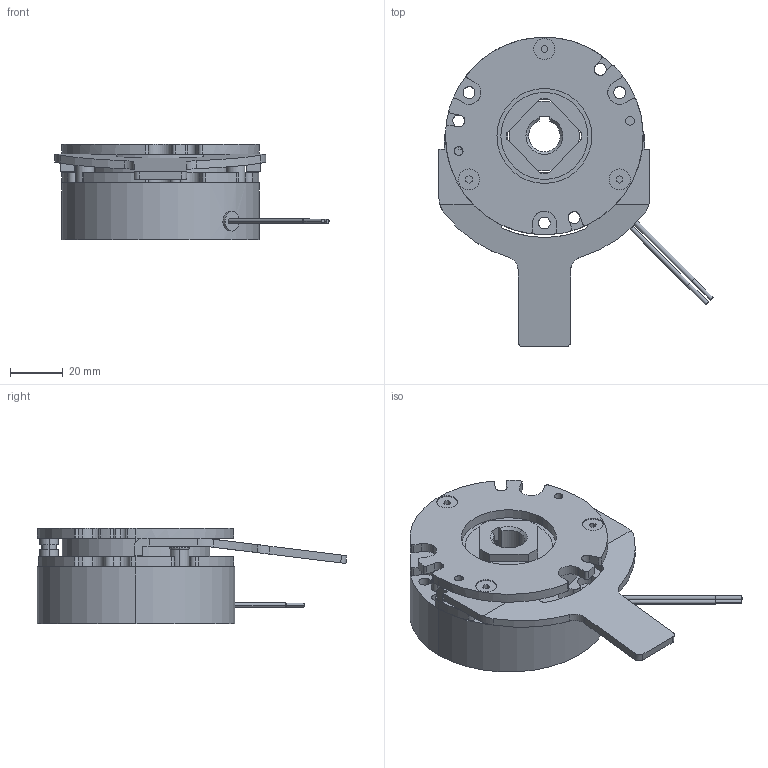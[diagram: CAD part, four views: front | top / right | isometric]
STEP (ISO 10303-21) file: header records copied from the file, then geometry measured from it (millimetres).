
FILE_DESCRIPTION (( 'STEP AP214' ), '1' );
FILE_NAME ('BXW-05-12L.STEP', '2018-10-10T08:21:38', ( 'MIKI' ), ( '' ), 'SwSTEP 2.0', 'SolidWorks 2012', '' );
FILE_SCHEMA (( 'AUTOMOTIVE_DESIGN' ));
Length unit declared in the file: millimetre
Products named in the file (1): BXW-05-12L
Bounding box: 104.01 x 117.5 x 36.1 mm (x, y, z)
Volume: 128543.4 mm3; surface area: 40835.8 mm2
Topology: 3 solids, 3 shells, 352 faces, 932 edges, 604 vertices
Faces by surface type: cylinder 183, plane 143, cone 18, bspline 8
Entity records: 15270 total; most frequent: CARTESIAN_POINT 2309, DIRECTION 1966, ORIENTED_EDGE 1856, EDGE_CURVE 928, AXIS2_PLACEMENT_3D 725, VERTEX_POINT 604, LINE 516, VECTOR 516
